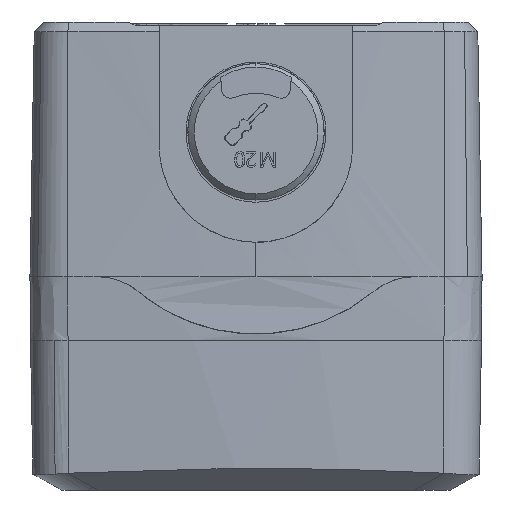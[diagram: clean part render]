
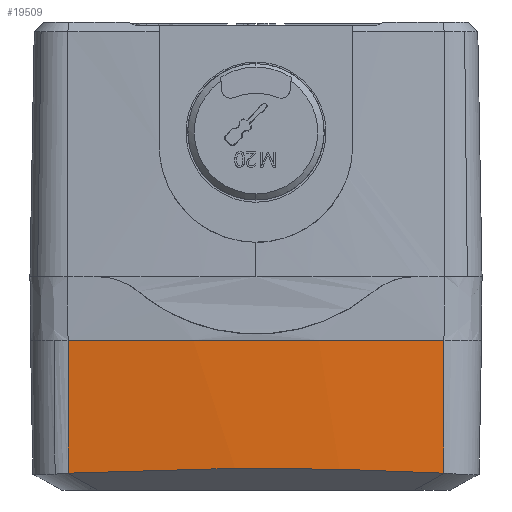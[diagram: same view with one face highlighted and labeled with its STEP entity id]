
A CAD part, left-side view. The second image highlights one B-rep face of the part: STEP entity #19509.
In plain terms, the highlighted conical face has half-angle 1 degrees and reference radius 316.019 mm.
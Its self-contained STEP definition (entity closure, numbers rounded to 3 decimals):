
#428 = EDGE_LOOP ( 'NONE', ( #24968, #32751, #2893, #26836 ) ) ;
#2893 = ORIENTED_EDGE ( 'NONE', *, *, #26696, .T. ) ;
#3352 = LINE ( 'NONE', #27924, #17126 ) ;
#3373 = CONICAL_SURFACE ( 'NONE', #31784, 316.019, 0.017 ) ;
#4449 = VERTEX_POINT ( 'NONE', #29021 ) ;
#4837 = EDGE_CURVE ( 'NONE', #43732, #4449, #28959, .T. ) ;
#5067 = CARTESIAN_POINT ( 'NONE',  ( 173.013, 470.5, 2. ) ) ;
#6110 = VERTEX_POINT ( 'NONE', #12538 ) ;
#6454 = CARTESIAN_POINT ( 'NONE',  ( -141.262, 441.015, -18.854 ) ) ;
#6887 = EDGE_CURVE ( 'NONE', #4449, #6110, #12432, .T. ) ;
#8720 = CARTESIAN_POINT ( 'NONE',  ( -143.122, 460.642, -17.831 ) ) ;
#10460 = DIRECTION ( 'NONE',  ( 0., 0., -1. ) ) ;
#11187 = CARTESIAN_POINT ( 'NONE',  ( -141.625, 440.981, 2. ) ) ;
#11237 = VERTEX_POINT ( 'NONE', #43752 ) ;
#12432 = CIRCLE ( 'NONE', #37113, 316.019 ) ;
#12538 = CARTESIAN_POINT ( 'NONE',  ( -141.625, 500.02, 2. ) ) ;
#15629 = DIRECTION ( 'NONE',  ( 1., 0., 0. ) ) ;
#16766 = EDGE_CURVE ( 'NONE', #6110, #11237, #3352, .T. ) ;
#17126 = VECTOR ( 'NONE', #42221, 1000. ) ;
#18739 =( BOUNDED_CURVE ( )  B_SPLINE_CURVE ( 3, ( #44082, #40799, #8720, #23003 ),
 .UNSPECIFIED., .F., .F. ) 
 B_SPLINE_CURVE_WITH_KNOTS ( ( 4, 4 ),
 ( 6.189, 6.378 ),
 .UNSPECIFIED. ) 
 CURVE ( )  GEOMETRIC_REPRESENTATION_ITEM ( )  RATIONAL_B_SPLINE_CURVE ( ( 1., 0.997, 0.997, 1. ) ) 
 REPRESENTATION_ITEM ( '' )  );
#19509 = ADVANCED_FACE ( 'NONE', ( #30101 ), #3373, .T. ) ;
#20529 = VECTOR ( 'NONE', #32250, 1000. ) ;
#23003 = CARTESIAN_POINT ( 'NONE',  ( -141.262, 441.015, -18.854 ) ) ;
#24968 = ORIENTED_EDGE ( 'NONE', *, *, #6887, .T. ) ;
#26696 = EDGE_CURVE ( 'NONE', #11237, #43732, #18739, .T. ) ;
#26836 = ORIENTED_EDGE ( 'NONE', *, *, #4837, .T. ) ;
#27767 = DIRECTION ( 'NONE',  ( 1., 0., 0. ) ) ;
#27924 = CARTESIAN_POINT ( 'NONE',  ( -141.625, 500.019, 2. ) ) ;
#28959 = LINE ( 'NONE', #11187, #20529 ) ;
#29021 = CARTESIAN_POINT ( 'NONE',  ( -141.625, 440.98, 2. ) ) ;
#30101 = FACE_OUTER_BOUND ( 'NONE', #428, .T. ) ;
#30330 = DIRECTION ( 'NONE',  ( 0., 0., 1. ) ) ;
#31784 = AXIS2_PLACEMENT_3D ( 'NONE', #5067, #30330, #15629 ) ;
#32250 = DIRECTION ( 'NONE',  ( -0.017, -0.002, 1. ) ) ;
#32751 = ORIENTED_EDGE ( 'NONE', *, *, #16766, .T. ) ;
#37113 = AXIS2_PLACEMENT_3D ( 'NONE', #45574, #10460, #27767 ) ;
#40799 = CARTESIAN_POINT ( 'NONE',  ( -143.122, 480.358, -17.831 ) ) ;
#42221 = DIRECTION ( 'NONE',  ( 0.017, -0.002, -1. ) ) ;
#43732 = VERTEX_POINT ( 'NONE', #6454 ) ;
#43752 = CARTESIAN_POINT ( 'NONE',  ( -141.262, 499.985, -18.854 ) ) ;
#44082 = CARTESIAN_POINT ( 'NONE',  ( -141.262, 499.985, -18.854 ) ) ;
#45574 = CARTESIAN_POINT ( 'NONE',  ( 173.013, 470.5, 2. ) ) ;
